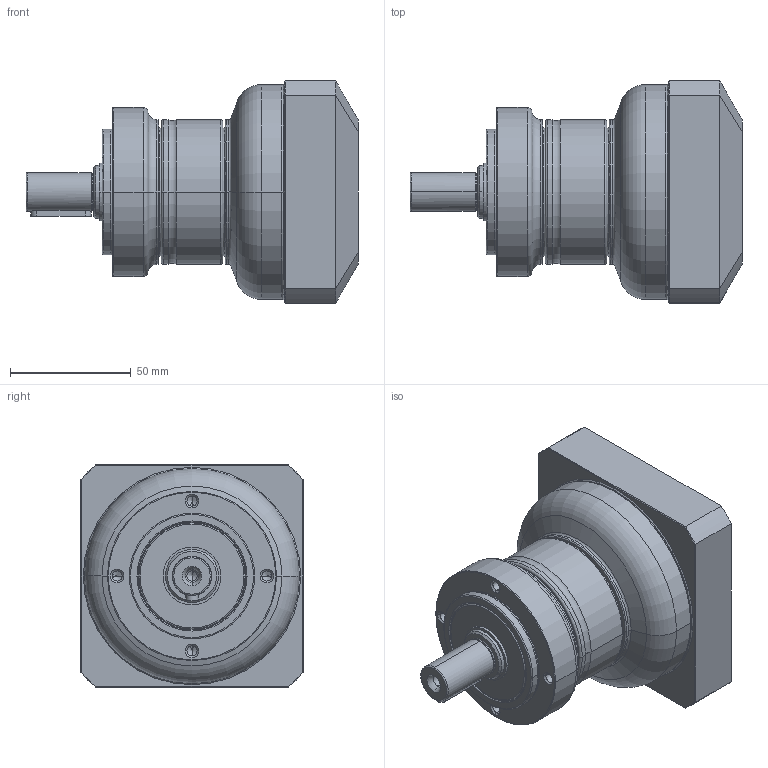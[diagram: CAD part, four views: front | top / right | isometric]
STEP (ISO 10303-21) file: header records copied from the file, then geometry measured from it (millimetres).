
FILE_DESCRIPTION((''),'2;1');
FILE_NAME('PE2-070_1ST_19-P0411400101_ASM','2017-05-26T',('d01943'),(''),'PRO/ENGINEER BY PARAMETRIC TECHNOLOGY CORPORATION, 2008410','PRO/ENGINEER BY PARAMETRIC TECHNOLOGY CORPORATION, 2008410','');
FILE_SCHEMA(('CONFIG_CONTROL_DESIGN'));
Length unit declared in the file: millimetre
Products named in the file (9): P1323210001; P0250200001; P1324200301; P0350201001; P0941203001; P0503400008; P0411400101; P1702500001; PE2-070_1ST_19-P0411400101_ASM
Assembly tree (8 placements, depth 2):
  PE2-070_1ST_19-P0411400101_ASM
    P1323210001
    P0250200001
    P1324200301
    P0350201001
    P0941203001
    P0503400008
    P0411400101
    P1702500001
Bounding box: 137.5 x 92 x 92 mm (x, y, z)
Volume: 396150.5 mm3; surface area: 105066.7 mm2
Topology: 8 solids, 8 shells, 465 faces, 1021 edges, 586 vertices
Faces by surface type: cone 138, cylinder 136, torus 98, plane 77, bspline 16
Entity records: 17474 total; most frequent: CARTESIAN_POINT 7040, DIRECTION 2375, ORIENTED_EDGE 1978, AXIS2_PLACEMENT_3D 1021, EDGE_CURVE 989, VERTEX_POINT 586, CIRCLE 555, EDGE_LOOP 527
